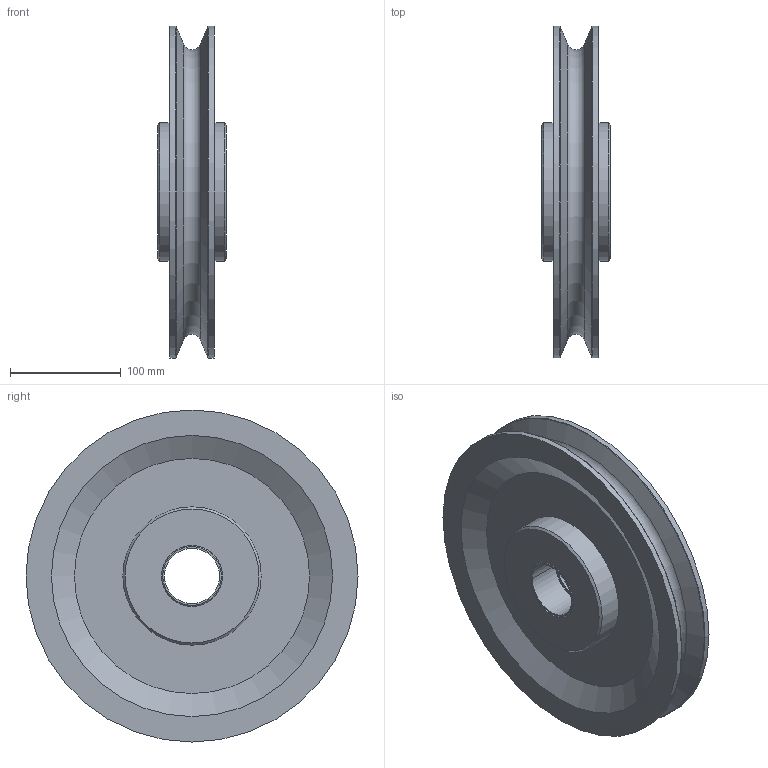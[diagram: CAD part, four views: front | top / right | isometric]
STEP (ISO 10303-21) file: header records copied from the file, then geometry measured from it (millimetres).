
FILE_DESCRIPTION(/* description */ ('Seilrolle ø300 Buchse komplett'),/* implementation_level */ '2;1');
FILE_NAME(/* name */ 'Z:\Workspace\03 Seilrollen\1.401 Seilrollen Gleitlager\1.401.08 Seilrolle ø 300 Buchse\1.401.08 Seilrolle ø300 Buchse komplett.stp',/* time_stamp */ '2022-02-01T08:27:12+01:00',/* author */ ('cad-user'),/* organization */ (''),/* preprocessor_version */ 'ST-DEVELOPER v18',/* originating_system */ 'Autodesk Inventor 2020',/* authorisation */ '');
FILE_SCHEMA (('AUTOMOTIVE_DESIGN { 1 0 10303 214 3 1 1 }'));
Length unit declared in the file: millimetre
Products named in the file (3): 1.401.08 Seilrolle ø300 Buchse komplett; 1.401.08 Seilrolle ø300 Buchse; Lagerbuchse 5030-DU
Assembly tree (3 placements, depth 2):
  1.401.08 Seilrolle ø300 Buchse komplett
    1.401.08 Seilrolle ø300 Buchse
    Lagerbuchse 5030-DU  x2
Bounding box: 62 x 300 x 300 mm (x, y, z)
Volume: 1863106.1 mm3; surface area: 248190.7 mm2
Topology: 3 solids, 3 shells, 38 faces, 100 edges, 68 vertices
Faces by surface type: plane 14, cylinder 11, cone 10, torus 3
Full cylindrical faces by diameter (mm): 55 x1, 125 x2, 300 x2
Entity records: 1094 total; most frequent: DIRECTION 200, CARTESIAN_POINT 178, ORIENTED_EDGE 158, AXIS2_PLACEMENT_3D 90, EDGE_CURVE 79, VERTEX_POINT 56, CIRCLE 55, EDGE_LOOP 35
